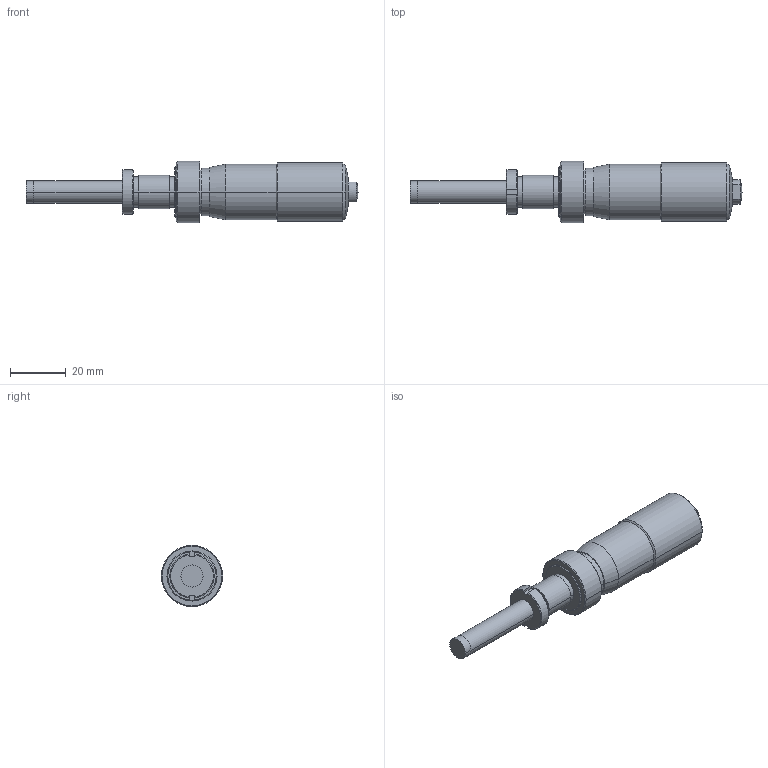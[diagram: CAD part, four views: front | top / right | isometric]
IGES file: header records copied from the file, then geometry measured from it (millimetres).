
Start section: Elysium IGES Interface
Global section: file name: 134HL:\商品設計部\部内\R_drv\99_受け渡しBOX\大竹\⇒賀藤さん\マイクロメータヘッド　CADデータ提供依頼\★3D_IGS完了\151-226-10_MHH2-25LTA.igs; native system: Creo Elements/Direct Modeling 18.1H  24-Oct-2015; preprocessor: Creo Element/Direct IGES_3D V2.2; author: Unknown; organization: Unknown; date: 20220927.094937; units: millimetre
Bounding box: 119.5 x 22 x 22 mm (x, y, z)
Volume: 24593.6 mm3; surface area: 6771.2 mm2
Topology: 1 solids, 1 shells, 65 faces, 144 edges, 89 vertices
Faces by surface type: bspline 65
